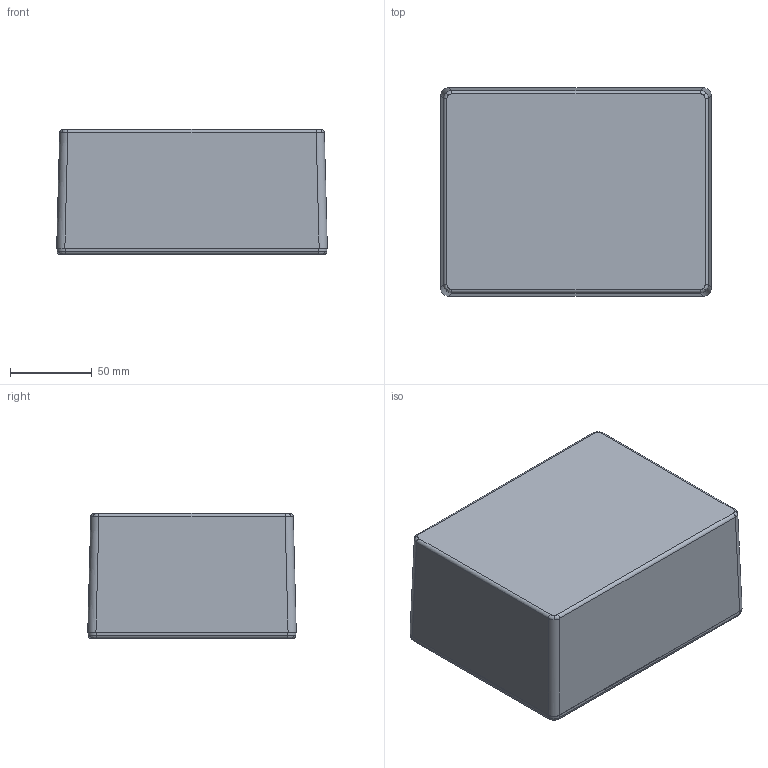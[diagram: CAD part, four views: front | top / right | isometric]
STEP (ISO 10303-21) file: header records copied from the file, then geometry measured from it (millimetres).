
FILE_DESCRIPTION(/* description */ (''),/* implementation_level */ '2;1');
FILE_NAME(/* name */ 'E:\Eng\Customer Service\Drawings\new 1550\STEP\1550L\1550L.iam.stp',/* time_stamp */ '2014-10-29T10:14:10-04:00',/* author */ ('tcook'),/* organization */ (''),/* preprocessor_version */ 'ST-DEVELOPER v15.2',/* originating_system */ 'Autodesk Inventor 2014',/* authorisation */ '');
FILE_SCHEMA (('AUTOMOTIVE_DESIGN { 1 0 10303 214 3 1 1 }'));
Products named in the file (4): 1550L BOX; 1550L LID; SC1550 (screw M3.5-0.6X 12mm FH); 1550L
Bounding box: 165.4 x 127.4 x 76.5 mm (x, y, z)
Volume: 188750.8 mm3; surface area: 169073.3 mm2
Topology: 8 solids, 8 shells, 996 faces, 2640 edges, 1709 vertices
Faces by surface type: plane 387, bspline 356, cone 94, cylinder 93, torus 66
Full cylindrical faces by diameter (mm): 3 x6, 3.43 x6
Entity records: 42812 total; most frequent: CARTESIAN_POINT 23499, ORIENTED_EDGE 4516, DIRECTION 3054, EDGE_CURVE 2258, VERTEX_POINT 1479, LINE 1092, VECTOR 1092, AXIS2_PLACEMENT_3D 981
